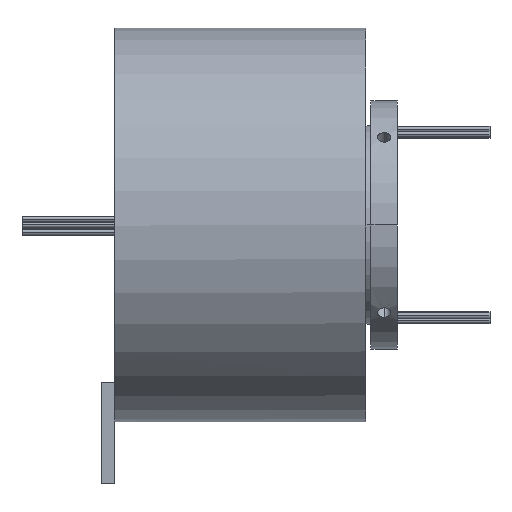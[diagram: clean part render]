
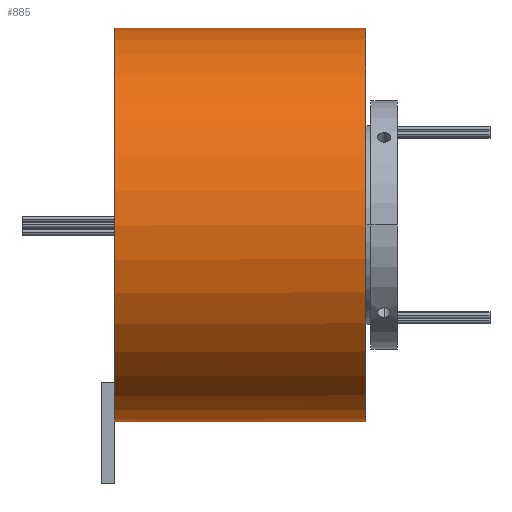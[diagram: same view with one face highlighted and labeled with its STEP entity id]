
A CAD part, left-side view. The second image highlights one B-rep face of the part: STEP entity #885.
In plain terms, the highlighted cylindrical face has radius 59.5 mm (diameter 119 mm), a partial arc.
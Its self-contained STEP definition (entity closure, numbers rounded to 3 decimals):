
#195=FACE_OUTER_BOUND('',#2601,.T.);
#885=ADVANCED_FACE('',(#195),#1349,.T.);
#1349=CYLINDRICAL_SURFACE('',#8355,59.5);
#1504=CIRCLE('',#8269,59.5);
#1553=CIRCLE('',#8347,59.5);
#1558=CIRCLE('',#8354,59.5);
#1736=LINE('',#14540,#1986);
#1737=LINE('',#14544,#1987);
#1986=VECTOR('',#9108,1.);
#1987=VECTOR('',#9111,1.);
#2601=EDGE_LOOP('',(#3552,#3553,#3554,#3555,#3556));
#3552=ORIENTED_EDGE('',*,*,#6505,.F.);
#3553=ORIENTED_EDGE('',*,*,#6631,.T.);
#3554=ORIENTED_EDGE('',*,*,#6503,.T.);
#3555=ORIENTED_EDGE('',*,*,#6539,.F.);
#3556=ORIENTED_EDGE('',*,*,#6626,.F.);
#5711=VERTEX_POINT('',#14538);
#5713=VERTEX_POINT('',#14541);
#5714=VERTEX_POINT('',#14543);
#5715=VERTEX_POINT('',#14545);
#5746=VERTEX_POINT('',#14855);
#6503=EDGE_CURVE('',#5713,#5711,#1736,.T.);
#6505=EDGE_CURVE('',#5714,#5715,#1737,.T.);
#6539=EDGE_CURVE('',#5746,#5711,#1504,.T.);
#6626=EDGE_CURVE('',#5715,#5746,#1553,.T.);
#6631=EDGE_CURVE('',#5714,#5713,#1558,.T.);
#8269=AXIS2_PLACEMENT_3D('',#14854,#9164,#9165);
#8347=AXIS2_PLACEMENT_3D('',#15035,#9358,#9359);
#8354=AXIS2_PLACEMENT_3D('',#15044,#9372,#9373);
#8355=AXIS2_PLACEMENT_3D('',#15045,#9374,#9375);
#9108=DIRECTION('',(0.,1.,0.));
#9111=DIRECTION('',(0.,1.,0.));
#9164=DIRECTION('',(0.,1.,0.));
#9165=DIRECTION('',(-0.168,0.,-0.986));
#9358=DIRECTION('',(0.,1.,0.));
#9359=DIRECTION('',(0.,0.,-1.));
#9372=DIRECTION('',(0.,1.,0.));
#9373=DIRECTION('',(0.,0.,-1.));
#9374=DIRECTION('',(0.,1.,0.));
#9375=DIRECTION('',(0.,0.,1.));
#14538=CARTESIAN_POINT('',(0.,85.5,59.5));
#14540=CARTESIAN_POINT('',(0.,9.5,59.5));
#14541=CARTESIAN_POINT('',(0.,9.5,59.5));
#14543=CARTESIAN_POINT('',(0.,9.5,-59.5));
#14544=CARTESIAN_POINT('',(0.,9.5,-59.5));
#14545=CARTESIAN_POINT('',(0.,85.5,-59.5));
#14854=CARTESIAN_POINT('',(0.,85.5,0.));
#14855=CARTESIAN_POINT('',(-10.,85.5,-58.654));
#15035=CARTESIAN_POINT('',(0.,85.5,0.));
#15044=CARTESIAN_POINT('',(0.,9.5,0.));
#15045=CARTESIAN_POINT('',(0.,9.5,0.));
